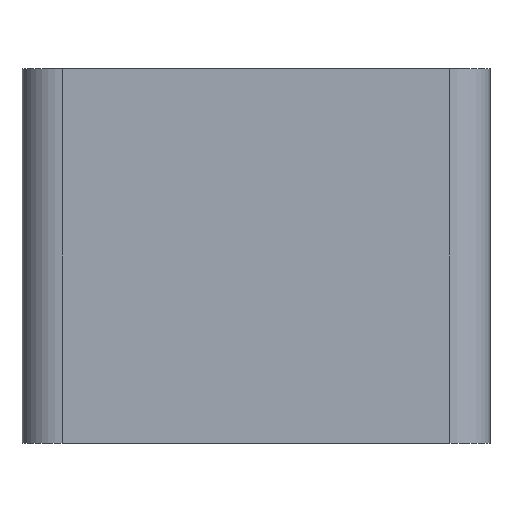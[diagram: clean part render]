
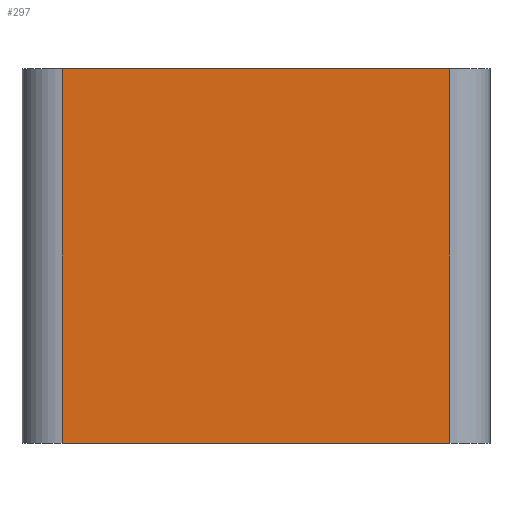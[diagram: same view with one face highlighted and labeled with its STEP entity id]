
A CAD part, front view. The second image highlights one B-rep face of the part: STEP entity #297.
In plain terms, the highlighted planar face has unit normal (0, -1, 0).
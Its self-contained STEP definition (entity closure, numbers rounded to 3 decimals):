
#175=FACE_OUTER_BOUND('',#1164,.T.);
#297=ADVANCED_FACE('',(#175),#454,.T.);
#454=PLANE('',#2840);
#553=LINE('',#4191,#680);
#554=LINE('',#4195,#681);
#555=LINE('',#4198,#682);
#556=LINE('',#4199,#683);
#680=VECTOR('',#3050,1.);
#681=VECTOR('',#3055,1.);
#682=VECTOR('',#3056,1.);
#683=VECTOR('',#3057,1.);
#1164=EDGE_LOOP('',(#1459,#1460,#1461,#1462));
#1459=ORIENTED_EDGE('',*,*,#2453,.T.);
#1460=ORIENTED_EDGE('',*,*,#2454,.T.);
#1461=ORIENTED_EDGE('',*,*,#2451,.T.);
#1462=ORIENTED_EDGE('',*,*,#2455,.T.);
#2191=VERTEX_POINT('',#4190);
#2192=VERTEX_POINT('',#4192);
#2193=VERTEX_POINT('',#4196);
#2194=VERTEX_POINT('',#4197);
#2451=EDGE_CURVE('',#2192,#2191,#553,.T.);
#2453=EDGE_CURVE('',#2193,#2194,#554,.T.);
#2454=EDGE_CURVE('',#2194,#2192,#555,.T.);
#2455=EDGE_CURVE('',#2191,#2193,#556,.T.);
#2840=AXIS2_PLACEMENT_3D('',#4200,#3058,#3059);
#3050=DIRECTION('',(-1.,0.,0.));
#3055=DIRECTION('',(1.,0.,0.));
#3056=DIRECTION('',(0.,0.,1.));
#3057=DIRECTION('',(0.,0.,-1.));
#3058=DIRECTION('',(0.,-1.,0.));
#3059=DIRECTION('',(0.,0.,-1.));
#4190=CARTESIAN_POINT('',(3.,0.,28.));
#4191=CARTESIAN_POINT('',(17.5,0.,28.));
#4192=CARTESIAN_POINT('',(32.,0.,28.));
#4195=CARTESIAN_POINT('',(17.5,0.,0.));
#4196=CARTESIAN_POINT('',(3.,0.,0.));
#4197=CARTESIAN_POINT('',(32.,0.,0.));
#4198=CARTESIAN_POINT('',(32.,0.,0.));
#4199=CARTESIAN_POINT('',(3.,0.,0.));
#4200=CARTESIAN_POINT('',(17.5,0.,0.));
